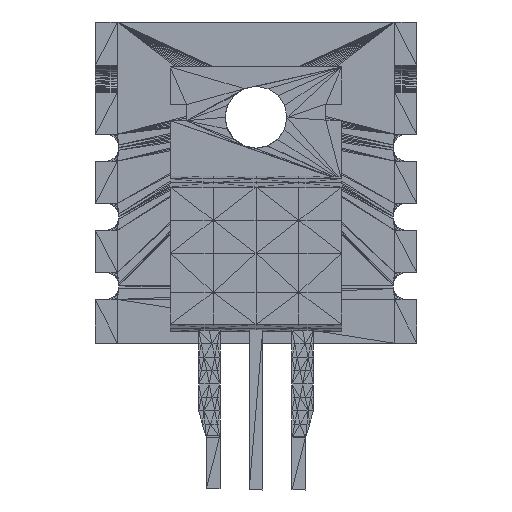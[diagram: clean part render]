
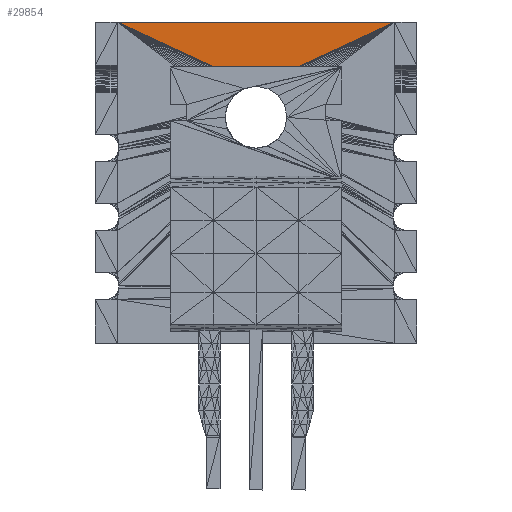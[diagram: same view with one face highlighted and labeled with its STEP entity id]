
A CAD part, front view. The second image highlights one B-rep face of the part: STEP entity #29854.
In plain terms, the highlighted planar face has unit normal (0, -1, 0).
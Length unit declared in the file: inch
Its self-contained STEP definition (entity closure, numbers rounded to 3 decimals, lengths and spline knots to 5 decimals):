
#29823=CARTESIAN_POINT('',(0.,0.1086,0.84501));
#29824=DIRECTION('',(0.,1.,0.));
#29825=DIRECTION('',(1.,0.,0.));
#29826=AXIS2_PLACEMENT_3D('',#29823,#29824,#29825);
#29827=PLANE('',#29826);
#29828=CARTESIAN_POINT('',(-0.,0.1086,0.84501));
#29829=VERTEX_POINT('',#29828);
#29830=CARTESIAN_POINT('',(0.32382,0.10854,0.99501));
#29831=VERTEX_POINT('',#29830);
#29832=CARTESIAN_POINT('',(0.,0.1086,0.84501));
#29833=DIRECTION('',(0.907,0.,0.42));
#29834=VECTOR('',#29833,0.35687);
#29835=LINE('',#29832,#29834);
#29836=EDGE_CURVE('',#29829,#29831,#29835,.T.);
#29837=ORIENTED_EDGE('',*,*,#29836,.T.);
#29838=CARTESIAN_POINT('',(-0.32382,0.10854,0.99501));
#29839=VERTEX_POINT('',#29838);
#29840=CARTESIAN_POINT('',(-0.32382,0.10854,0.99501));
#29841=DIRECTION('',(1.,0.,-0.));
#29842=VECTOR('',#29841,0.64764);
#29843=LINE('',#29840,#29842);
#29844=EDGE_CURVE('',#29839,#29831,#29843,.T.);
#29845=ORIENTED_EDGE('',*,*,#29844,.F.);
#29846=CARTESIAN_POINT('',(0.,0.1086,0.84501));
#29847=DIRECTION('',(-0.907,0.,0.42));
#29848=VECTOR('',#29847,0.35687);
#29849=LINE('',#29846,#29848);
#29850=EDGE_CURVE('',#29829,#29839,#29849,.T.);
#29851=ORIENTED_EDGE('',*,*,#29850,.F.);
#29852=EDGE_LOOP('',(#29837,#29845,#29851));
#29853=FACE_BOUND('',#29852,.T.);
#29854=ADVANCED_FACE('',(#29853),#29827,.F.);
